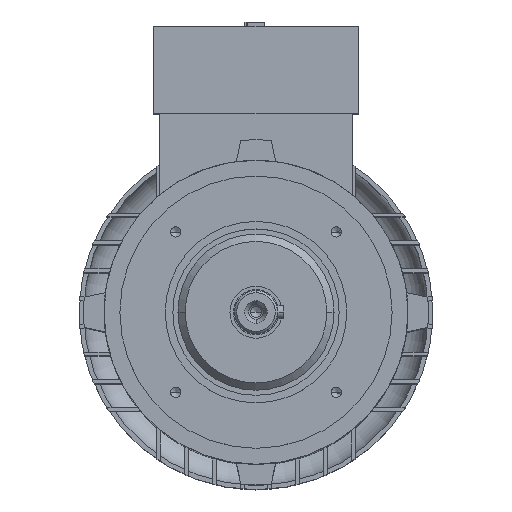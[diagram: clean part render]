
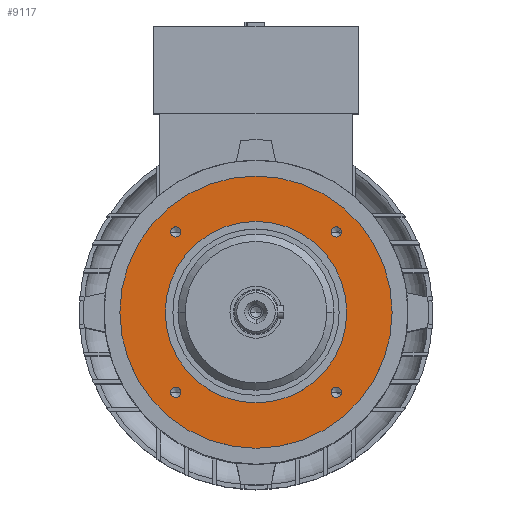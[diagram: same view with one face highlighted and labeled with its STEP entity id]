
A CAD part, top view. The second image highlights one B-rep face of the part: STEP entity #9117.
In plain terms, the highlighted planar face has unit normal (0, 0, 1).
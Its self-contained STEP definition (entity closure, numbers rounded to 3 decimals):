
#98 = AXIS2_PLACEMENT_3D ( 'NONE', #14147, #1122, #6948 ) ;
#353 = ORIENTED_EDGE ( 'NONE', *, *, #8196, .T. ) ;
#456 = ORIENTED_EDGE ( 'NONE', *, *, #2968, .F. ) ;
#554 = CARTESIAN_POINT ( 'NONE',  ( 35.355, -35.355, 100. ) ) ;
#627 = CARTESIAN_POINT ( 'NONE',  ( -35.355, 35.355, 100. ) ) ;
#683 = DIRECTION ( 'NONE',  ( 0., 0., -1. ) ) ;
#738 = CARTESIAN_POINT ( 'NONE',  ( -37.605, 35.355, 100. ) ) ;
#903 = EDGE_CURVE ( 'NONE', #1683, #5368, #3886, .T. ) ;
#950 = AXIS2_PLACEMENT_3D ( 'NONE', #1305, #7185, #1253 ) ;
#977 = DIRECTION ( 'NONE',  ( 0., 0., -1. ) ) ;
#1122 = DIRECTION ( 'NONE',  ( 0., 0., -1. ) ) ;
#1253 = DIRECTION ( 'NONE',  ( 1., 0., 0. ) ) ;
#1305 = CARTESIAN_POINT ( 'NONE',  ( 0., 60., 100. ) ) ;
#1368 = EDGE_CURVE ( 'NONE', #10872, #6331, #7387, .T. ) ;
#1392 = CIRCLE ( 'NONE', #11359, 40. ) ;
#1683 = VERTEX_POINT ( 'NONE', #14002 ) ;
#1988 = ORIENTED_EDGE ( 'NONE', *, *, #11946, .T. ) ;
#2525 = EDGE_LOOP ( 'NONE', ( #13953, #15196 ) ) ;
#2654 = VERTEX_POINT ( 'NONE', #7532 ) ;
#2681 = CARTESIAN_POINT ( 'NONE',  ( 60., 0., 100. ) ) ;
#2695 = DIRECTION ( 'NONE',  ( -1., 0., 0. ) ) ;
#2762 = FACE_BOUND ( 'NONE', #6469, .T. ) ;
#2894 = ORIENTED_EDGE ( 'NONE', *, *, #8791, .T. ) ;
#2968 = EDGE_CURVE ( 'NONE', #13107, #5663, #4381, .T. ) ;
#2989 = EDGE_CURVE ( 'NONE', #14643, #6140, #10277, .T. ) ;
#3341 = EDGE_CURVE ( 'NONE', #6140, #14643, #6032, .T. ) ;
#3470 = ORIENTED_EDGE ( 'NONE', *, *, #7010, .T. ) ;
#3886 = CIRCLE ( 'NONE', #5423, 2.25 ) ;
#3932 = CARTESIAN_POINT ( 'NONE',  ( 40., 0., 100. ) ) ;
#3947 = DIRECTION ( 'NONE',  ( 1., 0., 0. ) ) ;
#3955 = ORIENTED_EDGE ( 'NONE', *, *, #903, .T. ) ;
#4087 = DIRECTION ( 'NONE',  ( -1., 0., 0. ) ) ;
#4196 = DIRECTION ( 'NONE',  ( 0., 0., -1. ) ) ;
#4231 = EDGE_LOOP ( 'NONE', ( #15028, #2894 ) ) ;
#4278 = AXIS2_PLACEMENT_3D ( 'NONE', #5058, #5171, #12067 ) ;
#4381 = CIRCLE ( 'NONE', #9385, 60. ) ;
#4723 = AXIS2_PLACEMENT_3D ( 'NONE', #627, #14797, #7635 ) ;
#4956 = CARTESIAN_POINT ( 'NONE',  ( -37.605, -35.355, 100. ) ) ;
#5013 = CARTESIAN_POINT ( 'NONE',  ( 37.605, -35.355, 100. ) ) ;
#5058 = CARTESIAN_POINT ( 'NONE',  ( -35.355, -35.355, 100. ) ) ;
#5106 = CARTESIAN_POINT ( 'NONE',  ( 33.105, -35.355, 100. ) ) ;
#5171 = DIRECTION ( 'NONE',  ( 0., 0., -1. ) ) ;
#5368 = VERTEX_POINT ( 'NONE', #738 ) ;
#5423 = AXIS2_PLACEMENT_3D ( 'NONE', #15027, #7979, #6617 ) ;
#5454 = CIRCLE ( 'NONE', #4723, 2.25 ) ;
#5472 = EDGE_LOOP ( 'NONE', ( #456, #11515 ) ) ;
#5532 = FACE_BOUND ( 'NONE', #15208, .T. ) ;
#5583 = ORIENTED_EDGE ( 'NONE', *, *, #2989, .T. ) ;
#5663 = VERTEX_POINT ( 'NONE', #2681 ) ;
#5790 = DIRECTION ( 'NONE',  ( -1., 0., 0. ) ) ;
#5897 = FACE_BOUND ( 'NONE', #4231, .T. ) ;
#5943 = DIRECTION ( 'NONE',  ( 0., 0., -1. ) ) ;
#6032 = CIRCLE ( 'NONE', #7527, 2.25 ) ;
#6140 = VERTEX_POINT ( 'NONE', #4956 ) ;
#6221 = EDGE_CURVE ( 'NONE', #6331, #10872, #7065, .T. ) ;
#6291 = CIRCLE ( 'NONE', #11324, 40. ) ;
#6331 = VERTEX_POINT ( 'NONE', #15234 ) ;
#6469 = EDGE_LOOP ( 'NONE', ( #353, #3470 ) ) ;
#6567 = CARTESIAN_POINT ( 'NONE',  ( 35.355, 35.355, 100. ) ) ;
#6617 = DIRECTION ( 'NONE',  ( 1., 0., 0. ) ) ;
#6924 = CARTESIAN_POINT ( 'NONE',  ( 0., 0., 100. ) ) ;
#6948 = DIRECTION ( 'NONE',  ( 1., 0., 0. ) ) ;
#7010 = EDGE_CURVE ( 'NONE', #10237, #9585, #8876, .T. ) ;
#7065 = CIRCLE ( 'NONE', #14340, 2.25 ) ;
#7128 = CARTESIAN_POINT ( 'NONE',  ( 0., 0., 100. ) ) ;
#7185 = DIRECTION ( 'NONE',  ( 0., 0., 1. ) ) ;
#7387 = CIRCLE ( 'NONE', #98, 2.25 ) ;
#7527 = AXIS2_PLACEMENT_3D ( 'NONE', #12001, #977, #14012 ) ;
#7532 = CARTESIAN_POINT ( 'NONE',  ( -40., 0., 100. ) ) ;
#7635 = DIRECTION ( 'NONE',  ( 1., 0., 0. ) ) ;
#7979 = DIRECTION ( 'NONE',  ( 0., 0., -1. ) ) ;
#8083 = DIRECTION ( 'NONE',  ( 1., 0., 0. ) ) ;
#8196 = EDGE_CURVE ( 'NONE', #9585, #10237, #9236, .T. ) ;
#8557 = ORIENTED_EDGE ( 'NONE', *, *, #3341, .T. ) ;
#8574 = AXIS2_PLACEMENT_3D ( 'NONE', #6924, #5943, #5790 ) ;
#8791 = EDGE_CURVE ( 'NONE', #14089, #2654, #6291, .T. ) ;
#8876 = CIRCLE ( 'NONE', #9702, 2.25 ) ;
#9117 = ADVANCED_FACE ( 'NONE', ( #9754, #5897, #2762, #14557, #13633, #5532 ), #9524, .T. ) ;
#9236 = CIRCLE ( 'NONE', #10323, 2.25 ) ;
#9385 = AXIS2_PLACEMENT_3D ( 'NONE', #9736, #9685, #2695 ) ;
#9524 = PLANE ( 'NONE',  #950 ) ;
#9585 = VERTEX_POINT ( 'NONE', #5013 ) ;
#9685 = DIRECTION ( 'NONE',  ( 0., 0., -1. ) ) ;
#9702 = AXIS2_PLACEMENT_3D ( 'NONE', #15265, #10605, #8083 ) ;
#9731 = CARTESIAN_POINT ( 'NONE',  ( -33.105, -35.355, 100. ) ) ;
#9736 = CARTESIAN_POINT ( 'NONE',  ( 0., 0., 100. ) ) ;
#9754 = FACE_OUTER_BOUND ( 'NONE', #5472, .T. ) ;
#9881 = EDGE_CURVE ( 'NONE', #5663, #13107, #15255, .T. ) ;
#10237 = VERTEX_POINT ( 'NONE', #5106 ) ;
#10277 = CIRCLE ( 'NONE', #4278, 2.25 ) ;
#10323 = AXIS2_PLACEMENT_3D ( 'NONE', #554, #12405, #3947 ) ;
#10605 = DIRECTION ( 'NONE',  ( 0., 0., -1. ) ) ;
#10872 = VERTEX_POINT ( 'NONE', #13791 ) ;
#11257 = CARTESIAN_POINT ( 'NONE',  ( 0., 0., 100. ) ) ;
#11324 = AXIS2_PLACEMENT_3D ( 'NONE', #11257, #4196, #4087 ) ;
#11359 = AXIS2_PLACEMENT_3D ( 'NONE', #7128, #12867, #14167 ) ;
#11515 = ORIENTED_EDGE ( 'NONE', *, *, #9881, .F. ) ;
#11946 = EDGE_CURVE ( 'NONE', #5368, #1683, #5454, .T. ) ;
#12001 = CARTESIAN_POINT ( 'NONE',  ( -35.355, -35.355, 100. ) ) ;
#12067 = DIRECTION ( 'NONE',  ( 1., 0., 0. ) ) ;
#12218 = EDGE_CURVE ( 'NONE', #2654, #14089, #1392, .T. ) ;
#12381 = DIRECTION ( 'NONE',  ( 1., 0., 0. ) ) ;
#12405 = DIRECTION ( 'NONE',  ( 0., 0., -1. ) ) ;
#12774 = EDGE_LOOP ( 'NONE', ( #3955, #1988 ) ) ;
#12867 = DIRECTION ( 'NONE',  ( 0., 0., -1. ) ) ;
#13107 = VERTEX_POINT ( 'NONE', #13718 ) ;
#13633 = FACE_BOUND ( 'NONE', #12774, .T. ) ;
#13718 = CARTESIAN_POINT ( 'NONE',  ( -60., 0., 100. ) ) ;
#13791 = CARTESIAN_POINT ( 'NONE',  ( 37.605, 35.355, 100. ) ) ;
#13953 = ORIENTED_EDGE ( 'NONE', *, *, #1368, .T. ) ;
#14002 = CARTESIAN_POINT ( 'NONE',  ( -33.105, 35.355, 100. ) ) ;
#14012 = DIRECTION ( 'NONE',  ( 1., 0., 0. ) ) ;
#14089 = VERTEX_POINT ( 'NONE', #3932 ) ;
#14147 = CARTESIAN_POINT ( 'NONE',  ( 35.355, 35.355, 100. ) ) ;
#14167 = DIRECTION ( 'NONE',  ( -1., 0., 0. ) ) ;
#14340 = AXIS2_PLACEMENT_3D ( 'NONE', #6567, #683, #12381 ) ;
#14557 = FACE_BOUND ( 'NONE', #2525, .T. ) ;
#14643 = VERTEX_POINT ( 'NONE', #9731 ) ;
#14797 = DIRECTION ( 'NONE',  ( 0., 0., -1. ) ) ;
#15027 = CARTESIAN_POINT ( 'NONE',  ( -35.355, 35.355, 100. ) ) ;
#15028 = ORIENTED_EDGE ( 'NONE', *, *, #12218, .T. ) ;
#15196 = ORIENTED_EDGE ( 'NONE', *, *, #6221, .T. ) ;
#15208 = EDGE_LOOP ( 'NONE', ( #5583, #8557 ) ) ;
#15234 = CARTESIAN_POINT ( 'NONE',  ( 33.105, 35.355, 100. ) ) ;
#15255 = CIRCLE ( 'NONE', #8574, 60. ) ;
#15265 = CARTESIAN_POINT ( 'NONE',  ( 35.355, -35.355, 100. ) ) ;
